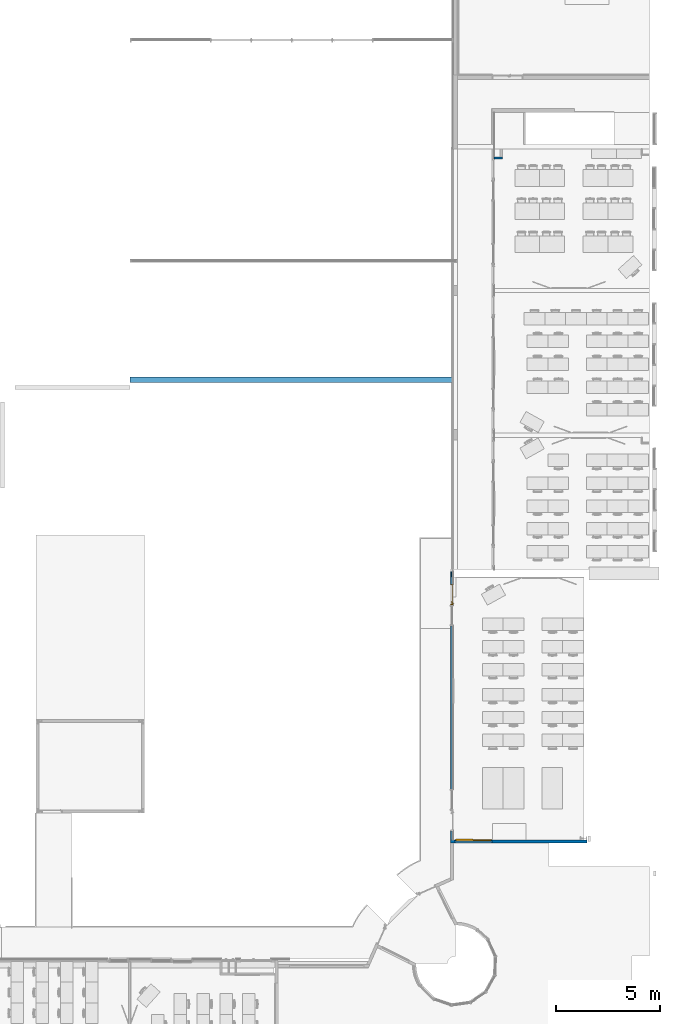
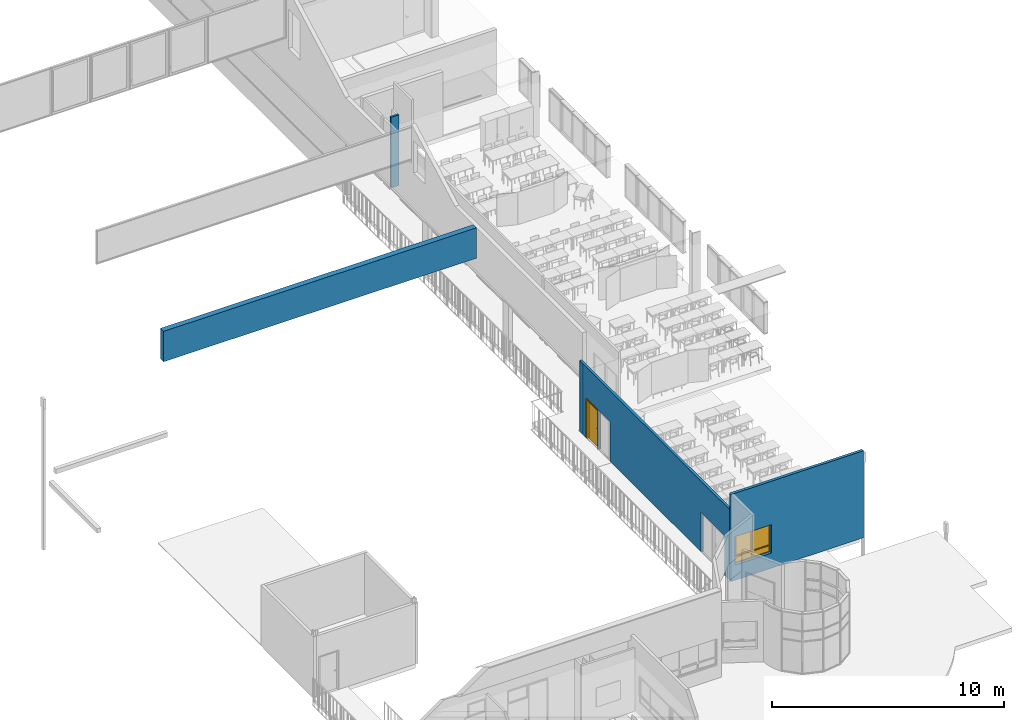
# One storey, part 23 of 44: 5 walls, 1 door, 1 window, 5 openings.
"""IFC2X3 building model written with IfcOpenShell, lengths in centimetres."""

from ifc_helpers import new_model, entity, si_unit, converted_unit, derived_unit, direction, frame, frame_2d, origin, place, context, subcontext, project, spatial, polyline, rectangle, outline, extrude, faceted_brep, source, transform, mapped, material, material_list, layer, layer_set, layer_usage, type_object, type_shapes, element, fill, save


model = new_model("IFC2X3")

# Units and contexts
model_context = context("Model", 3, precision=0.001, world=origin(), true_north=direction((6.12303176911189e-17, 1.0)))
body_context = subcontext(model_context, "Body", "Model", "MODEL_VIEW")
ifc_project = project(units=[si_unit("LENGTHUNIT", "METRE", prefix="CENTI"), si_unit("AREAUNIT", "SQUARE_METRE"), si_unit("VOLUMEUNIT", "CUBIC_METRE"), converted_unit("PLANEANGLEUNIT", "DEGREE", entity("IfcRatioMeasure", 0.0174532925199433), si_unit("PLANEANGLEUNIT", "RADIAN"), dimensions=[0, 0, 0, 0, 0, 0, 0]), si_unit("MASSUNIT", "GRAM", prefix="KILO"), si_unit("TIMEUNIT", "SECOND"), si_unit("FREQUENCYUNIT", "HERTZ"), si_unit("THERMODYNAMICTEMPERATUREUNIT", "DEGREE_CELSIUS"), derived_unit("THERMALTRANSMITTANCEUNIT", [(si_unit("MASSUNIT", "GRAM", prefix="KILO"), 1), (si_unit("THERMODYNAMICTEMPERATUREUNIT", "KELVIN"), -1), (si_unit("TIMEUNIT", "SECOND"), -3)]), derived_unit("VOLUMETRICFLOWRATEUNIT", [(si_unit("LENGTHUNIT", "METRE"), 3), (si_unit("TIMEUNIT", "SECOND"), -1)]), si_unit("ELECTRICCURRENTUNIT", "AMPERE"), si_unit("ELECTRICVOLTAGEUNIT", "VOLT"), si_unit("POWERUNIT", "WATT"), si_unit("FORCEUNIT", "NEWTON", prefix="KILO"), si_unit("ILLUMINANCEUNIT", "LUX"), si_unit("LUMINOUSFLUXUNIT", "LUMEN"), si_unit("LUMINOUSINTENSITYUNIT", "CANDELA"), derived_unit("USERDEFINED", [(si_unit("MASSUNIT", "GRAM", prefix="KILO"), -1), (si_unit("LENGTHUNIT", "METRE"), -2), (si_unit("TIMEUNIT", "SECOND"), 3), (si_unit("LUMINOUSFLUXUNIT", "LUMEN"), 1)]), derived_unit("LINEARVELOCITYUNIT", [(si_unit("LENGTHUNIT", "METRE"), 1), (si_unit("TIMEUNIT", "SECOND"), -1)]), si_unit("PRESSUREUNIT", "PASCAL"), derived_unit("USERDEFINED", [(si_unit("LENGTHUNIT", "METRE"), -2), (si_unit("MASSUNIT", "GRAM", prefix="KILO"), 1), (si_unit("TIMEUNIT", "SECOND"), -2)])], contexts=[model_context])

# Site, building, storey
site_placement = place(None, frame((8.62739174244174, -249.285249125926, 0.0)))
site = spatial("IfcSite", under=ifc_project, at=site_placement, Name="Default", CompositionType="ELEMENT")
building_placement = place(site_placement, origin())
building = spatial("IfcBuilding", under=site, at=building_placement, CompositionType="ELEMENT")
storey_placement = place(building_placement, frame((0.0, 0.0, 343.0)))
storey = spatial("IfcBuildingStorey", under=building, at=storey_placement, Name="R+1", CompositionType="ELEMENT", Elevation=343.0)

# Wall, opening, window
ifc_material_1 = material(Name="Tôle/Doublage")
ifc_layer_1 = layer(ifc_material_1, 4.0)
ifc_material_2 = material(Name="Laine minérale")
ifc_layer_2 = layer(ifc_material_2, 8.0)
ifc_material_3 = material(Name="Plâtre")
ifc_layer_3 = layer(ifc_material_3, 2.0)
ifc_layer_set_1 = layer_set([ifc_layer_1, ifc_layer_2, ifc_layer_3], Name="Mur de base:MET 4 + ISO 8 + PLA 2")
ifc_layer_usage_1 = layer_usage(ifc_layer_set_1, "AXIS2", "NEGATIVE", 7.0)
wall_type_1 = type_object("IfcWallType", Name="Mur de base:MET 4 + ISO 8 + PLA 2", PredefinedType="STANDARD", material=ifc_layer_set_1)
wall_1_placement = place(storey_placement, frame((3678.98509457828, 1345.97981360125, 0.0), z_axis=(0.0, 0.0, 1.0), x_axis=(-1.0, 0.0, 0.0)))
wall_1 = element("IfcWallStandardCase", 1, at=wall_1_placement, inside=storey, type_object=wall_type_1, material=ifc_layer_usage_1, Name="Mur de base:MET 4 + ISO 8 + PLA 2", ObjectType="Mur de base:MET 4 + ISO 8 + PLA 2", context=body_context, shape_type="SweptSolid", body=[
    extrude(rectangle(XDim=659.0, YDim=13.9999999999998, at=frame_2d((329.5, 0.0), x_axis=(-1.0, 0.0))), origin(), (0.0, 0.0, 1.0), 458.0),
])
opening_1_placement = place(wall_1_placement, frame((458.025899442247, -7.0, 80.0)))
opening_1 = element("IfcOpeningElement", 2, at=opening_1_placement, cuts=wall_1, Name="S_90x115-F_90x115-A_40:S_90x115-F_90x115-A_40:1", ObjectType="Opening", context=body_context, shape_type="SweptSolid", body=[
    extrude(rectangle(XDim=150.0, YDim=180.0, at=frame_2d((75.0, 90.0), x_axis=(1.0, 0.0))), frame((0.0, 0.0, 0.0), z_axis=(0.0, 1.0, 0.0), x_axis=(0.0, 0.0, 1.0)), (0.0, 0.0, 1.0), 14.0),
])
ifc_material_4 = material(Name="Verre")
window_style = type_object("IfcWindowStyle", Name="S_90x115-F_90x115-A_40", ConstructionType="NOTDEFINED", OperationType="NOTDEFINED", ParameterTakesPrecedence=False, Sizeable=False, material=ifc_material_4)
shared_shape_1 = source(origin(), body_context, "Body", "SweptSolid", [
    extrude(rectangle(XDim=82.0, YDim=2.0, at=frame_2d((0.0, 4.44089209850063e-16), x_axis=(1.0, 0.0))), frame((46.0, 2.0, 40.0)), (0.0, 0.0, 1.0), 105.0),
    extrude(rectangle(XDim=82.0, YDim=2.0, at=frame_2d((0.0, 4.44089209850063e-16), x_axis=(1.0, 0.0))), frame((46.0, 2.0, 5.0)), (0.0, 0.0, 1.0), 30.0),
    extrude(rectangle(XDim=82.0, YDim=2.0, at=frame_2d((0.0, 4.44089209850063e-16), x_axis=(1.0, 0.0))), frame((134.0, 2.0, 5.0)), (0.0, 0.0, 1.0), 30.0000000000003),
    extrude(rectangle(XDim=74.0000000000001, YDim=2.0, at=frame_2d((0.0, 4.44089209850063e-16), x_axis=(1.0, 0.0))), frame((134.0, 2.0, 44.0)), (0.0, 0.0, 1.0), 97.0000000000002),
    extrude(outline(polyline([(-95.0, 3.0), (-95.0, -3.0), (10.0, -3.0), (10.0, -85.0), (15.0, -85.0), (15.0, -3.0), (45.0, -3.0), (45.0, 3.0), (15.0, 3.0), (15.0, 85.0), (10.0, 85.0), (10.0, 3.0), (-95.0, 3.0)])), frame((90.0, 5.0, 50.0), z_axis=(0.0, 1.0, 0.0), x_axis=(0.0, 0.0, -1.0)), (0.0, 0.0, -1.0), 5.0),
    extrude(outline(polyline([(-90.0, -75.0), (90.0, -75.0), (90.0, 75.0), (-90.0, 75.0), (-90.0, -75.0)]), holes=[polyline([(-85.0, 70.0), (85.0, 70.0), (85.0, -70.0), (-85.0, -70.0), (-85.0, 70.0)])]), frame((90.0, 0.0, 75.0), z_axis=(0.0, -1.0, 0.0), x_axis=(-1.0, 0.0, 0.0)), (0.0, 0.0, 1.0), 3.00000000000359),
    extrude(outline(polyline([(-41.0, -52.4999999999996), (41.0, -52.4999999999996), (41.0, 52.4999999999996), (-41.0, 52.4999999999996), (-41.0, -52.4999999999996)]), holes=[polyline([(-37.0, 48.5000000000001), (37.0, 48.5000000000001), (37.0, -48.5000000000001), (-37.0, -48.5000000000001), (-37.0, 48.5000000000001)])]), frame((134.0, 0.0, 92.5), z_axis=(0.0, -1.0, 0.0), x_axis=(1.0, 0.0, 0.0)), (0.0, 0.0, 1.0), 4.00000000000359),
])
type_shapes(window_style, [shared_shape_1])
window_placement = place(opening_1_placement, origin())
window = element("IfcWindow", 3, at=window_placement, inside=storey, type_object=window_style, material=ifc_material_4, Name="S_90x115-F_90x115-A_40:S_90x115-F_90x115-A_40", ObjectType="S_90x115-F_90x115-A_40", OverallHeight=150.0, OverallWidth=180.0, context=body_context, shape_type="MappedRepresentation", body=[
    mapped(shared_shape_1, transform((0.0, 0.0, 0.0), scale=1.0)),
])
fill(opening_1, window)

# Walls
ifc_layer_4 = layer(ifc_material_3, 10.0)
ifc_layer_set_2 = layer_set([ifc_layer_4], Name="Mur de base:PLA 10")
ifc_layer_usage_2 = layer_usage(ifc_layer_set_2, "AXIS2", "NEGATIVE", 5.0)
wall_type_2 = type_object("IfcWallType", Name="Mur de base:PLA 10", PredefinedType="STANDARD", material=ifc_layer_set_2)
wall_2_placement = place(storey_placement, frame((3229.90482780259, 4637.98020813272, 0.0)))
element("IfcWallStandardCase", 4, at=wall_2_placement, inside=storey, type_object=wall_type_2, material=ifc_layer_usage_2, Name="Mur de base:PLA 10", ObjectType="Mur de base:PLA 10", context=body_context, shape_type="SweptSolid", body=[
    extrude(rectangle(XDim=39.9999763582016, YDim=9.99999999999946, at=frame_2d((19.9999881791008, 0.0), x_axis=(-1.0, 0.0))), origin(), (0.0, 0.0, 1.0), 372.0),
])
ifc_layer_5 = layer(ifc_material_3, 5.0)
ifc_layer_set_3 = layer_set([ifc_layer_5], Name="Mur de base:PLA 5")
ifc_layer_usage_3 = layer_usage(ifc_layer_set_3, "AXIS2", "NEGATIVE", 2.5)
wall_type_3 = type_object("IfcWallType", Name="Mur de base:PLA 5", PredefinedType="STANDARD", material=ifc_layer_set_3)
wall_3_placement = place(storey_placement, frame((3024.40482780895, 2621.98020806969, 0.0), z_axis=(0.0, 0.0, 1.0), x_axis=(0.0, 1.0, 0.0)))
element("IfcWallStandardCase", 5, at=wall_3_placement, inside=storey, type_object=wall_type_3, material=ifc_layer_usage_3, Name="Mur de base:PLA 5", ObjectType="Mur de base:PLA 5", context=body_context, shape_type="SweptSolid", body=[
    extrude(rectangle(XDim=22.9999999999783, YDim=4.99999999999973, at=frame_2d((11.4999999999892, 0.0), x_axis=(-1.0, 0.0))), origin(), (0.0, 0.0, 1.0), 363.0),
])
ifc_material_5 = material(Name="Tôle/Doublage(PROJET)")
ifc_layer_6 = layer(ifc_material_5, 4.0)
ifc_layer_7 = layer(ifc_material_2, 22.0)
ifc_layer_8 = layer(ifc_material_5, 1.0)
ifc_layer_set_4 = layer_set([ifc_layer_6, ifc_layer_7, ifc_layer_8], Name="Mur de base:MET PROJET 4 + ISO 23 + MET 1")
ifc_layer_usage_4 = layer_usage(ifc_layer_set_4, "AXIS2", "NEGATIVE", 13.5)
wall_type_4 = type_object("IfcWallType", Name="Mur de base:MET PROJET 4 + ISO 23 + MET 1", PredefinedType="NOTDEFINED")
wall_4_placement = place(storey_placement, frame((1476.9048277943, 3570.9806025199, 352.0)))
element("IfcWallStandardCase", 6, at=wall_4_placement, inside=storey, type_object=wall_type_4, material=ifc_layer_usage_4, Name="Mur de base:MET PROJET 4 + ISO 23 + MET 1", ObjectType="Mur de base:MET PROJET 4 + ISO 23 + MET 1", context=body_context, shape_type="SweptSolid", body=[
    extrude(rectangle(XDim=1557.0000000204, YDim=26.9999999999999, at=frame_2d((778.500000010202, -1.11022302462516e-13), x_axis=(-1.0, 0.0))), origin(), (0.0, 0.0, 1.0), 160.000000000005),
])

# Wall, openings, door
ifc_layer_9 = layer(ifc_material_3, 12.0)
ifc_layer_set_5 = layer_set([ifc_layer_9], Name="Mur de base:PLA 12")
ifc_layer_usage_5 = layer_usage(ifc_layer_set_5, "AXIS2", "NEGATIVE", 6.0)
wall_type_5 = type_object("IfcWallType", Name="Mur de base:PLA 12", PredefinedType="STANDARD", material=ifc_layer_set_5)
wall_5_placement = place(storey_placement, frame((3025.98509457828, 2644.98020806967, 0.0), z_axis=(0.0, 0.0, 1.0), x_axis=(0.0, -1.0, 0.0)))
wall_5 = element("IfcWallStandardCase", 7, at=wall_5_placement, inside=storey, type_object=wall_type_5, material=ifc_layer_usage_5, Name="Mur de base:PLA 12", ObjectType="Mur de base:PLA 12", context=body_context, shape_type="SweptSolid", body=[
    extrude(rectangle(XDim=1292.00039446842, YDim=11.9999999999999, at=frame_2d((646.000197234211, -8.43769498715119e-15), x_axis=(-1.0, 0.0))), origin(), (0.0, 0.0, 1.0), 372.0),
])
opening_2_placement = place(wall_5_placement, origin())
element("IfcOpeningElement", 8, at=opening_2_placement, cuts=wall_5, Name="Mur de base:PLA 12", ObjectType="Opening", context=body_context, shape_type="SweptSolid", body=[
    extrude(rectangle(XDim=208.499999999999, YDim=100.0, at=frame_2d((-2.16715534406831e-13, 0.0), x_axis=(0.0, 1.0))), frame((210.999706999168, -21.2400000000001, 104.25), z_axis=(0.0, 1.0, 0.0), x_axis=(-1.0, 0.0, 0.0)), (0.0, 0.0, 1.0), 42.4799999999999),
])
opening_3_placement = place(wall_5_placement, origin())
element("IfcOpeningElement", 9, at=opening_3_placement, cuts=wall_5, Name="Mur de base:PLA 12", ObjectType="Opening", context=body_context, shape_type="SweptSolid", body=[
    extrude(rectangle(XDim=208.499999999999, YDim=100.0, at=frame_2d((0.0, 0.0), x_axis=(0.0, 1.0))), frame((1098.68238229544, -21.2399999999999, 104.25), z_axis=(0.0, 1.0, 0.0), x_axis=(-1.0, 0.0, 0.0)), (0.0, 0.0, 1.0), 42.4799999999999),
])
opening_4_placement = place(wall_5_placement, frame((60.0, -6.0, 0.0)))
opening_4 = element("IfcOpeningElement", 10, at=opening_4_placement, cuts=wall_5, Name="Simple(R)_bois_mu:93 x 204 cm:1", ObjectType="Opening", context=body_context, shape_type="SweptSolid", body=[
    extrude(rectangle(XDim=207.499999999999, YDim=99.9999999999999, at=frame_2d((103.749999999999, 50.0), x_axis=(1.0, 0.0))), frame((0.0, 0.0, 0.0), z_axis=(0.0, 1.0, 0.0), x_axis=(0.0, 0.0, 1.0)), (0.0, 0.0, 1.0), 12.0),
])
opening_5_placement = place(wall_5_placement, frame((1148.68238229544, -6.0, 0.0)))
element("IfcOpeningElement", 11, at=opening_5_placement, cuts=wall_5, Name="Simple(R)_bois_mu:93 x 204 cm:1", ObjectType="Opening", context=body_context, shape_type="SweptSolid", body=[
    extrude(rectangle(XDim=207.499999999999, YDim=99.9999999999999, at=frame_2d((103.749999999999, 50.0), x_axis=(1.0, 0.0))), frame((0.0, 0.0, 0.0), z_axis=(0.0, 1.0, 0.0), x_axis=(0.0, 0.0, 1.0)), (0.0, 0.0, 1.0), 12.0),
])
ifc_material_6 = material(Name="Porte - Poignée")
ifc_material_7 = material(Name="Porte - Cadre")
ifc_material_8 = material(Name="Porte - Panneau")
ifc_material_list_1 = material_list([ifc_material_6, ifc_material_7, ifc_material_8])
ifc_material_list_2 = material_list([ifc_material_6, ifc_material_7, ifc_material_8])
door_style = type_object("IfcDoorStyle", Name="93 x 204 cm", ConstructionType="NOTDEFINED", OperationType="SINGLE_SWING_RIGHT", ParameterTakesPrecedence=False, Sizeable=False, material=ifc_material_list_2)
shared_shape_2 = source(origin(), body_context, "Body", "Brep", [
    faceted_brep([(8.79747013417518, 3.69999999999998, 100.778044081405), (8.3999999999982, 3.69999999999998, 100.699999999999), (8.39999999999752, 3.69999999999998, 99.2999999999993), (8.79747013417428, 3.69999999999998, 99.2219559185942), (9.20252986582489, 3.69999999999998, 99.2219559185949), (9.60000000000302, 3.69999999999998, 99.3000000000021), (9.60000000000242, 3.69999999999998, 100.699999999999), (9.2025298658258, 3.69999999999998, 100.778044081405), (9.60000000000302, 5.94852045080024, 99.3000000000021), (9.60000000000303, 5.94852045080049, 100.699999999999), (9.20252986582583, 6.1131579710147, 100.778044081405), (10.5838906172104, 7.49451872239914, 100.778044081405), (10.4161093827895, 7.89957845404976, 100.778044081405), (8.79747013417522, 6.2809392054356, 100.778044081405), (19.5684749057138, 6.84673156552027, 100.778044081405), (19.8548953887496, 7.13315204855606, 100.778044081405), (19.0884689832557, 7.89957845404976, 100.778044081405), (18.9206877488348, 7.49451872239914, 100.778044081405), (8.39999999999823, 6.44557672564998, 100.699999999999), (8.3999999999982, 6.44557672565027, 99.2999999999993), (8.79747013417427, 6.28093920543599, 99.2219559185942), (10.4161093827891, 7.8995784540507, 99.2219559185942), (10.58389061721, 7.49451872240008, 99.2219559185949), (9.20252986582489, 6.11315797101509, 99.2219559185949), (19.8548953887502, 7.13315204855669, 99.2219559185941), (19.5684749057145, 6.84673156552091, 99.2219559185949), (18.9206877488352, 7.49451872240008, 99.2219559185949), (19.088468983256, 7.8995784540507, 99.2219559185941), (10.7485281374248, 7.09704858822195, 99.3000000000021), (10.748528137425, 7.09704858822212, 100.699999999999), (10.2514718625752, 8.29704858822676, 100.699999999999), (10.2514718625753, 8.29704858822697, 99.2999999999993), (14.7522904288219, 7.09704858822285, 99.3000000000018), (18.7560502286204, 7.09704858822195, 99.3000000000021), (18.7560502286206, 7.09704858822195, 100.699999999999), (14.7522891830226, 7.09704858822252, 100.699999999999), (14.7522891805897, 7.71249275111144, 100.787811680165), (19.25310650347, 8.29704858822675, 100.699999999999), (15.2600577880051, 8.29704858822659, 100.699999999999), (19.2531065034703, 8.29704858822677, 99.2999999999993), (14.2445206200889, 8.29704858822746, 99.2999999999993), (14.7522892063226, 7.71249274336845, 99.2121883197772), (19.2874210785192, 6.56567773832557, 99.3000000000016), (20.1359492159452, 7.41420587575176, 99.2999999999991), (20.135949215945, 7.4142058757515, 100.699999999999), (19.287421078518, 6.5656777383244, 100.699999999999)], [[[0, 1, 2, 3, 4, 5, 6, 7]], [[6, 5, 8, 9]], [[9, 10, 7, 6]], [[10, 11, 12, 13, 0, 7]], [[14, 15, 16, 17]], [[13, 18, 1, 0]], [[2, 1, 18, 19]], [[19, 20, 3, 2]], [[20, 21, 22, 23, 4, 3]], [[24, 25, 26, 27]], [[23, 8, 5, 4]], [[9, 8, 28, 29]], [[29, 11, 10, 9]], [[12, 30, 18, 13]], [[19, 18, 30, 31]], [[31, 21, 20, 19]], [[22, 28, 8, 23]], [[29, 28, 32, 33, 34, 35]], [[11, 35, 36]], [[16, 37, 38]], [[30, 12, 38]], [[38, 12, 36]], [[36, 35, 17]], [[17, 16, 36]], [[35, 11, 29]], [[34, 17, 35]], [[11, 36, 12]], [[38, 36, 16]], [[31, 30, 38, 37, 39, 40]], [[40, 41, 21]], [[41, 40, 27]], [[21, 31, 40]], [[39, 27, 40]], [[41, 32, 22]], [[22, 21, 41]], [[26, 32, 41]], [[28, 22, 32]], [[32, 26, 33]], [[26, 41, 27]], [[42, 25, 24, 43, 44, 15, 14, 45]], [[34, 33, 42, 45]], [[45, 14, 17, 34]], [[15, 44, 37, 16]], [[39, 37, 44, 43]], [[43, 24, 27, 39]], [[25, 42, 33, 26]]]),
    faceted_brep([(8.79747013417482, -1.30000000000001, 100.778044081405), (9.20252986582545, -1.30000000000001, 100.778044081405), (9.6000000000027, -1.30000000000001, 100.699999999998), (9.60000000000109, -1.30000000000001, 99.3000000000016), (9.20252986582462, -1.30000000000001, 99.2219559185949), (8.79747013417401, -1.30000000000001, 99.2219559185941), (8.39999999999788, -1.30000000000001, 99.2999999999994), (8.39999999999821, -1.30000000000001, 100.699999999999), (8.39999999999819, -4.06509507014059, 100.699999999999), (8.7974701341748, -3.90045754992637, 100.778044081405), (10.402358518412, -5.50534593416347, 100.778044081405), (10.5701397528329, -5.10028620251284, 100.778044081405), (9.20252986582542, -3.73267631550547, 100.778044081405), (19.852181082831, -4.73891952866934, 100.778044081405), (19.5657605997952, -4.4524990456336, 100.778044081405), (18.9179734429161, -5.10028620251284, 100.778044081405), (19.085754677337, -5.50534593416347, 100.778044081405), (9.60000000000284, -3.56803879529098, 100.699999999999), (9.6000000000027, -3.56803879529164, 99.3000000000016), (9.20252986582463, -3.7326763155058, 99.2219559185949), (10.5701397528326, -5.10028620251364, 99.2219559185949), (10.4023585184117, -5.50534593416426, 99.2219559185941), (8.79747013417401, -3.9004575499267, 99.2219559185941), (19.5657605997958, -4.45249904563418, 99.2219559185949), (19.8521810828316, -4.73891952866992, 99.2219559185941), (19.0857546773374, -5.50534593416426, 99.2219559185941), (18.9179734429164, -5.10028620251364, 99.2219559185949), (8.39999999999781, -4.06509507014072, 99.2999999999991), (10.2377209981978, -5.90281606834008, 100.699999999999), (10.7347772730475, -4.70281606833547, 100.699999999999), (10.7347772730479, -4.70281606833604, 99.3000000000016), (10.2377209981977, -5.90281606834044, 99.2999999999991), (14.2307697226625, -5.90281606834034, 100.699999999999), (14.7440566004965, -5.31828027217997, 100.787811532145), (19.2503921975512, -5.90281606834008, 100.699999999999), (14.7440565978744, -4.70281606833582, 100.699999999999), (18.7533359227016, -4.70281606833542, 100.699999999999), (18.7533359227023, -4.70281606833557, 99.3000000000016), (14.7440563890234, -4.70281606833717, 99.3000000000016), (14.744056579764, -5.31828027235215, 99.2121884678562), (19.2503921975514, -5.90281606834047, 99.2999999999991), (15.2573433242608, -5.90281606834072, 99.2999999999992), (19.2847067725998, -4.1714452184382, 100.699999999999), (20.1332349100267, -5.01997335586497, 100.699999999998), (20.1332349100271, -5.01997335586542, 99.2999999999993), (19.2847067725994, -4.17144521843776, 99.3000000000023)], [[[0, 1, 2, 3, 4, 5, 6, 7]], [[8, 9, 0, 7]], [[9, 10, 11, 12, 1, 0]], [[13, 14, 15, 16]], [[12, 17, 2, 1]], [[3, 2, 17, 18]], [[18, 19, 4, 3]], [[19, 20, 21, 22, 5, 4]], [[23, 24, 25, 26]], [[22, 27, 6, 5]], [[7, 6, 27, 8]], [[28, 10, 9, 8]], [[11, 29, 17, 12]], [[18, 17, 29, 30]], [[30, 20, 19, 18]], [[21, 31, 27, 22]], [[8, 27, 31, 28]], [[32, 33, 10]], [[33, 32, 16]], [[10, 28, 32]], [[34, 16, 32]], [[33, 35, 11]], [[11, 10, 33]], [[15, 35, 33]], [[29, 11, 35]], [[35, 15, 36]], [[15, 33, 16]], [[30, 29, 35, 36, 37, 38]], [[20, 38, 39]], [[25, 40, 41]], [[31, 21, 41]], [[41, 21, 39]], [[39, 38, 26]], [[26, 25, 39]], [[38, 20, 30]], [[37, 26, 38]], [[20, 39, 21]], [[41, 39, 25]], [[28, 31, 41, 40, 34, 32]], [[42, 14, 13, 43, 44, 24, 23, 45]], [[43, 13, 16, 34]], [[14, 42, 36, 15]], [[37, 36, 42, 45]], [[45, 23, 26, 37]], [[24, 44, 40, 25]], [[34, 40, 44, 43]]]),
    faceted_brep([(10.03527618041, 3.19999999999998, 86.6003983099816), (11.0, 3.19999999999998, 87.0), (11.0, 3.19999999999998, 108.0), (10.03527618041, 3.19999999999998, 108.399601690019), (9.0, 3.19999999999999, 108.535898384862), (7.96472381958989, 3.19999999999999, 108.399601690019), (7.0, 3.19999999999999, 108.0), (7.0, 3.19999999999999, 87.0), (7.96472381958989, 3.19999999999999, 86.6003983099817), (9.0, 3.19999999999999, 86.4641016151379), (10.03527618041, 3.69999999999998, 108.399601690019), (11.0, 3.69999999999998, 108.0), (11.0, 3.69999999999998, 87.0), (10.03527618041, 3.69999999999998, 86.6003983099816), (9.0, 3.69999999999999, 86.4641016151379), (7.96472381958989, 3.69999999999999, 86.6003983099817), (7.0, 3.69999999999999, 87.0), (7.0, 3.69999999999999, 108.0), (7.96472381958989, 3.69999999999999, 108.399601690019), (9.0, 3.69999999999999, 108.535898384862)], [[[0, 1, 2, 3, 4, 5, 6, 7, 8, 9]], [[10, 11, 12, 13, 14, 15, 16, 17, 18, 19]], [[11, 10, 3, 2]], [[3, 10, 19, 4]], [[19, 18, 5, 4]], [[18, 17, 6, 5]], [[7, 6, 17, 16]], [[16, 15, 8, 7]], [[8, 15, 14, 9]], [[14, 13, 0, 9]], [[13, 12, 1, 0]], [[2, 1, 12, 11]]]),
    faceted_brep([(10.03527618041, -1.30000000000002, 86.6003983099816), (11.0, -1.30000000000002, 87.0), (11.0, -1.30000000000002, 108.0), (10.03527618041, -1.30000000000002, 108.399601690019), (9.0, -1.30000000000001, 108.535898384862), (7.9647238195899, -1.30000000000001, 108.399601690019), (7.0, -1.30000000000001, 108.0), (7.0, -1.30000000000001, 87.0), (7.96472381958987, -1.30000000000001, 86.6003983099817), (9.0, -1.30000000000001, 86.4641016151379), (10.03527618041, -0.800000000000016, 108.399601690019), (11.0, -0.800000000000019, 108.0), (11.0, -0.800000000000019, 87.0), (10.03527618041, -0.800000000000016, 86.6003983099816), (9.0, -0.800000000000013, 86.4641016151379), (7.96472381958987, -0.800000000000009, 86.6003983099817), (7.0, -0.800000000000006, 87.0), (7.0, -0.800000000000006, 108.0), (7.9647238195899, -0.800000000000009, 108.399601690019), (9.0, -0.800000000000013, 108.535898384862)], [[[0, 1, 2, 3, 4, 5, 6, 7, 8, 9]], [[10, 11, 12, 13, 14, 15, 16, 17, 18, 19]], [[16, 15, 8, 7]], [[8, 15, 14, 9]], [[14, 13, 0, 9]], [[13, 12, 1, 0]], [[2, 1, 12, 11]], [[11, 10, 3, 2]], [[3, 10, 19, 4]], [[19, 18, 5, 4]], [[18, 17, 6, 5]], [[7, 6, 17, 16]]]),
    faceted_brep([(0.0, 0.0, 0.0), (0.0, 12.0, 0.0), (-1.0, 12.0, 0.0), (-1.0, 12.8000000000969, 0.0), (4.49999999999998, 12.8000000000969, 0.0), (4.49999999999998, 3.2, 0.0), (3.49999999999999, 3.2, 0.0), (3.49999999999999, -0.799999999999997, 0.0), (-1.0, -0.799999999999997, 0.0), (-1.0, 0.0, 0.0), (0.0, 0.0, 207.499999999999), (0.0, 12.0, 207.499999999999), (100.0, 12.0, 207.499999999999), (100.0, 12.0, 0.0), (101.0, 12.0, 0.0), (101.0, 12.0, 208.499999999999), (-1.0, 12.0, 208.499999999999), (-1.0, 12.8000000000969, 208.499999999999), (101.0, 12.8000000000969, 208.499999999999), (101.0, 12.8000000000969, 0.0), (95.5, 12.8000000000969, 0.0), (95.5, 12.8000000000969, 203.0), (4.49999999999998, 12.8000000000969, 203.0), (4.49999999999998, 3.2, 203.0), (95.5, 3.2, 203.0), (95.5, 3.2, 0.0), (96.5, 3.2, 0.0), (96.5, 3.2, 204.0), (3.49999999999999, 3.2, 204.0), (3.49999999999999, -0.799999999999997, 204.0), (96.5, -0.799999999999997, 204.0), (96.5, -0.799999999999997, 0.0), (101.0, -0.799999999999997, 0.0), (101.0, -0.799999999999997, 208.499999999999), (-1.0, -0.799999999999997, 208.499999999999), (-1.0, 0.0, 208.499999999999), (101.0, 0.0, 208.499999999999), (101.0, 0.0, 0.0), (100.0, 0.0, 0.0), (100.0, 0.0, 207.499999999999)], [[[0, 1, 2, 3, 4, 5, 6, 7, 8, 9]], [[1, 0, 10, 11]], [[2, 1, 11, 12, 13, 14, 15, 16]], [[3, 2, 16, 17]], [[4, 3, 17, 18, 19, 20, 21, 22]], [[5, 4, 22, 23]], [[6, 5, 23, 24, 25, 26, 27, 28]], [[7, 6, 28, 29]], [[8, 7, 29, 30, 31, 32, 33, 34]], [[9, 8, 34, 35]], [[0, 9, 35, 36, 37, 38, 39, 10]], [[12, 39, 38, 13]], [[38, 37, 32, 31, 26, 25, 20, 19, 14, 13]], [[18, 15, 14, 19]], [[24, 21, 20, 25]], [[30, 27, 26, 31]], [[36, 33, 32, 37]], [[11, 10, 39, 12]], [[17, 16, 15, 18]], [[23, 22, 21, 24]], [[29, 28, 27, 30]], [[35, 34, 33, 36]]]),
    faceted_brep([(3.49999999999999, -0.799999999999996, 204.0), (3.49999999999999, -0.799999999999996, 0.0), (96.5, -0.799999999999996, 0.0), (96.5, -0.799999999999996, 204.0), (3.49999999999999, 3.2, 204.0), (96.5, 3.2, 204.0), (96.5, 3.2, 0.0), (3.49999999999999, 3.2, 0.0)], [[[0, 1, 2, 3]], [[4, 5, 6, 7]], [[1, 0, 4, 7]], [[2, 1, 7, 6]], [[3, 2, 6, 5]], [[0, 3, 5, 4]]]),
])
type_shapes(door_style, [shared_shape_2])
door_placement = place(opening_4_placement, frame((100.0, 12.0, 0.0), z_axis=(0.0, 0.0, 1.0), x_axis=(-1.0, 0.0, 0.0)))
door = element("IfcDoor", 12, at=door_placement, inside=storey, type_object=door_style, material=ifc_material_list_1, Name="Simple(R)_bois_mu:93 x 204 cm", ObjectType="93 x 204 cm", OverallHeight=207.499999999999, OverallWidth=99.9999999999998, context=body_context, shape_type="MappedRepresentation", body=[
    mapped(shared_shape_2, transform((0.0, 0.0, 0.0), scale=1.0)),
])
fill(opening_4, door)

save(model, "model.ifc")
